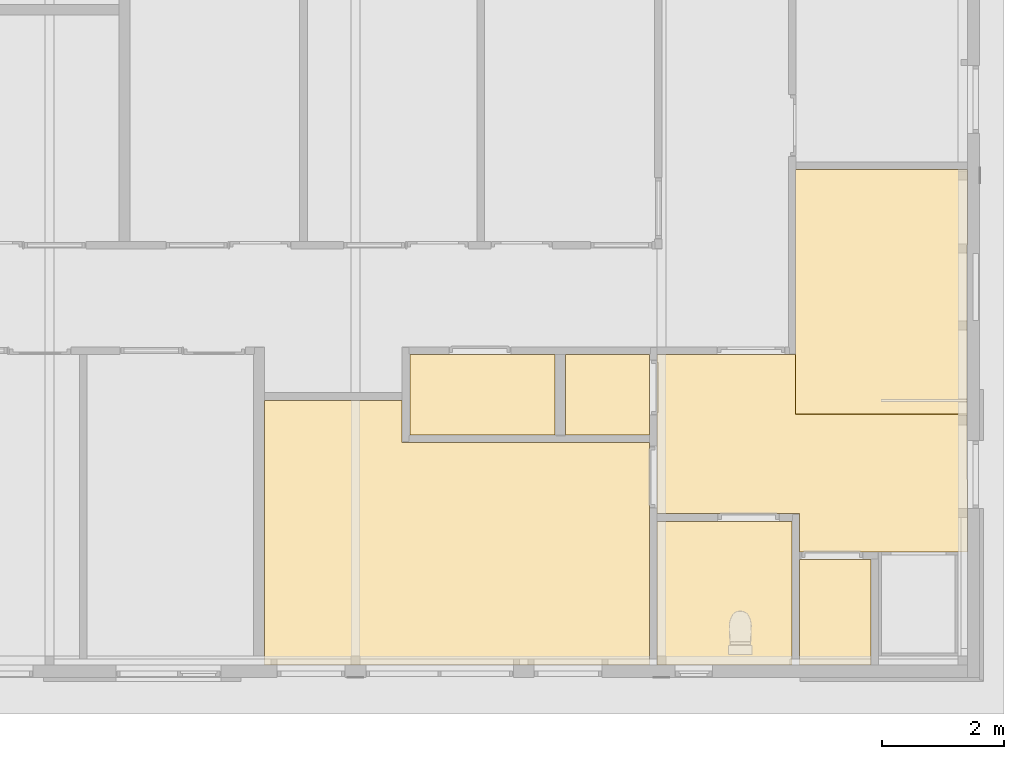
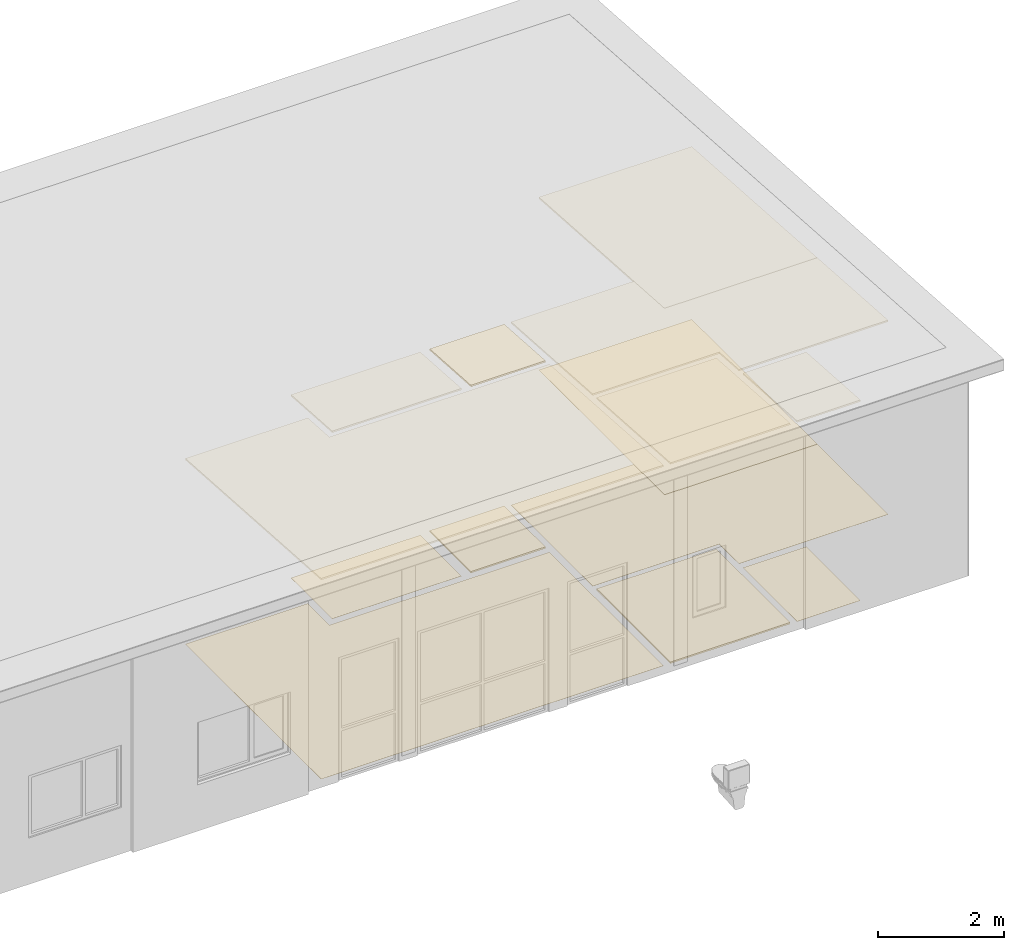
# One storey, part 34 of 37: 14 coverings.
"""IFC2X3 building model written with IfcOpenShell, lengths in millimetres."""

from ifc_helpers import new_model, entity, si_unit, converted_unit, frame, frame_2d, origin, origin_with_axes, place, context, subcontext, project, spatial, polyline, rectangle, outline, extrude, material, layer, layer_set, layer_usage, element, save


model = new_model("IFC2X3")

# Units and contexts
model_context = context("Model", 3, precision=1e-05, world=origin())
plan_context = context("Plan", 3, precision=1e-05, world=origin())
body_context = subcontext(model_context, "Body", "Model", "MODEL_VIEW")
ifc_project = project(units=[si_unit("LENGTHUNIT", "METRE", prefix="MILLI"), converted_unit("PLANEANGLEUNIT", "DEGREE", entity("IfcPlaneAngleMeasure", 0.0174532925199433), si_unit("PLANEANGLEUNIT", "RADIAN"), dimensions=[0, 0, 0, 0, 0, 0, 0]), si_unit("AREAUNIT", "SQUARE_METRE"), si_unit("VOLUMEUNIT", "CUBIC_METRE")], contexts=[model_context, plan_context])

# Building, storey, space
building_placement = place(None, origin())
building = spatial("IfcBuilding", under=ifc_project, at=building_placement, Name="HEKF Administrasjonbygg", CompositionType="ELEMENT")
storey_placement = place(building_placement, frame((0.0, 0.0, 9900.0), z_axis=(0.0, 0.0, 1.0), x_axis=(1.0, 0.0, 0.0)))
storey = spatial("IfcBuildingStorey", under=building, at=storey_placement, Name="Plan 2", CompositionType="ELEMENT", Elevation=9900.0)
space_1_placement = place(storey_placement, frame((20888.99999999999, -8237.0, 0.0), z_axis=(0.0, 0.0, 1.0), x_axis=(1.0, 0.0, 0.0)))
space_1 = spatial("IfcSpace", under=storey, at=space_1_placement, Name="215", CompositionType="ELEMENT", InteriorOrExteriorSpace="INTERNAL")

# Coverings
ifc_material_1 = material(Name="Våtromsbelegg m oppkant")
ifc_layer_1 = layer(ifc_material_1, 3.0)
ifc_layer_set_1 = layer_set([ifc_layer_1])
ifc_layer_usage_1 = layer_usage(ifc_layer_set_1, "AXIS3", "POSITIVE", 0.0)
covering_1_placement = place(space_1_placement, origin_with_axes())
element("IfcCovering", 1, at=covering_1_placement, inside=space_1, material=ifc_layer_usage_1, PredefinedType="FLOORING", context=body_context, shape_type="SweptSolid", body=[
    extrude(rectangle(XDim=2374.214318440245, YDim=1312.0, at=frame_2d((-1187.107159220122, -655.9999999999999), x_axis=(-0.9999999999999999, 0.0))), frame((2374.214318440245, 1312.0, 0.0), z_axis=(0.0, 0.0, 1.0), x_axis=(1.0, 0.0, 0.0)), (0.0, 0.0, 1.0), 3.0),
])
ifc_material_2 = material(Name="Systemhimling")
ifc_layer_2 = layer(ifc_material_2, 30.0)
ifc_layer_set_2 = layer_set([ifc_layer_2])
ifc_layer_usage_2 = layer_usage(ifc_layer_set_2, "AXIS3", "POSITIVE", 0.0)
covering_2_placement = place(space_1_placement, frame((1187.107159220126, 656.0, 3605.399999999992), z_axis=(0.0, -0.06651901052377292, -0.997785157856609), x_axis=(-1.0, 0.0, 0.0)))
element("IfcCovering", 2, at=covering_2_placement, inside=space_1, material=ifc_layer_usage_2, PredefinedType="CEILING", context=body_context, shape_type="SweptSolid", body=[
    extrude(rectangle(XDim=2374.214318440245, YDim=1314.912323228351, at=frame_2d((-1187.107159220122, -657.4561616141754), x_axis=(-0.9999999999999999, 0.0))), frame((1187.107159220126, 657.4561616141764, 0.0), z_axis=(0.0, 0.0, 1.0), x_axis=(1.0, 0.0, 0.0)), (0.0, 0.0, 1.0), 30.0),
])

# Space
space_2_placement = place(storey_placement, frame((23437.21431844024, -8237.0, 0.0), z_axis=(0.0, 0.0, 1.0), x_axis=(1.0, 0.0, 0.0)))
space_2 = spatial("IfcSpace", under=storey, at=space_2_placement, Name="204", CompositionType="ELEMENT", InteriorOrExteriorSpace="INTERNAL")

# Coverings
ifc_material_3 = material(Name="Våtromsbelegg m oppkant")
ifc_layer_3 = layer(ifc_material_3, 30.0)
ifc_layer_set_3 = layer_set([ifc_layer_3])
ifc_layer_usage_3 = layer_usage(ifc_layer_set_3, "AXIS3", "POSITIVE", 0.0)
covering_3_placement = place(space_2_placement, origin_with_axes())
element("IfcCovering", 3, at=covering_3_placement, inside=space_2, material=ifc_layer_usage_3, PredefinedType="FLOORING", context=body_context, shape_type="SweptSolid", body=[
    extrude(rectangle(XDim=1312.0, YDim=1369.703231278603, at=frame_2d((684.8516156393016, -656.0), x_axis=(0.0, -1.0))), frame((0.0, 1312.0, 0.0), z_axis=(0.0, 0.0, 1.0), x_axis=(1.0, 0.0, 0.0)), (0.0, 0.0, 1.0), 30.0),
])
ifc_material_4 = material(Name="Systemhimling")
ifc_layer_4 = layer(ifc_material_4, 30.0)
ifc_layer_set_4 = layer_set([ifc_layer_4])
ifc_layer_usage_4 = layer_usage(ifc_layer_set_4, "AXIS3", "POSITIVE", 0.0)
covering_4_placement = place(space_2_placement, frame((684.8516156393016, 656.0, 3605.399999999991), z_axis=(0.0, -0.06651901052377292, -0.9977851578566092), x_axis=(-1.0, 0.0, 0.0)))
element("IfcCovering", 4, at=covering_4_placement, inside=space_2, material=ifc_layer_usage_4, PredefinedType="CEILING", context=body_context, shape_type="SweptSolid", body=[
    extrude(rectangle(XDim=1314.912323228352, YDim=1369.703231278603, at=frame_2d((-684.8516156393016, 657.4561616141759), x_axis=(0.0, 1.0))), frame((684.8516156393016, -657.4561616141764, 0.0), z_axis=(0.0, 0.0, 1.0), x_axis=(1.0, 0.0, 0.0)), (0.0, 0.0, 1.0), 30.0),
])

# Space
space_3_placement = place(storey_placement, frame((24932.91754971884, -12000.0, 0.0), z_axis=(0.0, 0.0, 1.0), x_axis=(1.0, 0.0, 0.0)))
space_3 = spatial("IfcSpace", under=storey, at=space_3_placement, Name="203", CompositionType="ELEMENT", InteriorOrExteriorSpace="INTERNAL")

# Coverings
ifc_material_5 = material(Name="Våtromsbelegg m oppkant")
ifc_layer_5 = layer(ifc_material_5, 30.0)
ifc_layer_set_5 = layer_set([ifc_layer_5])
ifc_layer_usage_5 = layer_usage(ifc_layer_set_5, "AXIS3", "POSITIVE", 0.0)
covering_5_placement = place(space_3_placement, origin_with_axes())
element("IfcCovering", 5, at=covering_5_placement, inside=space_3, material=ifc_layer_usage_5, PredefinedType="FLOORING", context=body_context, shape_type="SweptSolid", body=[
    extrude(rectangle(XDim=2200.0, YDim=2350.0, at=frame_2d((-1100.0, -1175.0), x_axis=(-1.0, 0.0))), frame((2200.0, 2350.0, 0.0), z_axis=(0.0, 0.0, 1.0), x_axis=(1.0, 0.0, 0.0)), (0.0, 0.0, 1.0), 30.0),
])
ifc_material_6 = material(Name="Systemhimling")
ifc_layer_6 = layer(ifc_material_6, 30.0)
ifc_layer_set_6 = layer_set([ifc_layer_6])
ifc_layer_usage_6 = layer_usage(ifc_layer_set_6, "AXIS3", "POSITIVE", 0.0)
covering_6_placement = place(space_3_placement, frame((1100.0, 1175.0, 3821.666666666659), z_axis=(-2.808449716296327e-18, -0.06651901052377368, -0.997785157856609), x_axis=(-1.0, 4.222025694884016e-17, 0.0)))
element("IfcCovering", 6, at=covering_6_placement, inside=space_3, material=ifc_layer_usage_6, PredefinedType="CEILING", context=body_context, shape_type="SweptSolid", body=[
    extrude(rectangle(XDim=2200.0, YDim=2355.216432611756, at=frame_2d((-1100.0, -1177.608216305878), x_axis=(-1.0, 0.0))), frame((1100.0, 1177.60821630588, 0.0), z_axis=(0.0, 0.0, 1.0), x_axis=(1.0, 0.0, 0.0)), (0.0, 0.0, 1.0), 30.0),
])

# Space
space_4_placement = place(storey_placement, frame((18512.99999999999, -12000.0, 0.0), z_axis=(0.0, 0.0, 1.0), x_axis=(1.0, 0.0, 0.0)))
space_4 = spatial("IfcSpace", under=storey, at=space_4_placement, Name="214", CompositionType="ELEMENT", InteriorOrExteriorSpace="INTERNAL")

# Coverings
ifc_material_7 = material(Name="banebelegg acustikk")
ifc_layer_7 = layer(ifc_material_7, 3.0)
ifc_layer_set_7 = layer_set([ifc_layer_7])
ifc_layer_usage_7 = layer_usage(ifc_layer_set_7, "AXIS3", "POSITIVE", 0.0)
covering_7_placement = place(space_4_placement, origin_with_axes())
element("IfcCovering", 7, at=covering_7_placement, inside=space_4, material=ifc_layer_usage_7, PredefinedType="FLOORING", context=body_context, shape_type="SweptSolid", body=[
    extrude(outline(polyline([(2250.0, 3637.0), (2250.0, 4325.0), (0.0, 4325.0), (0.0, 0.0), (6293.917549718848, 0.0), (6293.917549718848, 3637.0), (2250.0, 3637.0)])), origin_with_axes(), (0.0, 0.0, 1.0), 3.0),
])
ifc_material_8 = material(Name="Systemhimling")
ifc_layer_8 = layer(ifc_material_8, 30.0)
ifc_layer_set_8 = layer_set([ifc_layer_8])
ifc_layer_usage_8 = layer_usage(ifc_layer_set_8, "AXIS3", "POSITIVE", 0.0)
covering_8_placement = place(space_4_placement, frame((2847.972516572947, 2654.0, 3723.066666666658), z_axis=(9.640688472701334e-18, -0.06651901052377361, -0.997785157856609), x_axis=(-1.0, -1.449313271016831e-16, 0.0)))
element("IfcCovering", 8, at=covering_8_placement, inside=space_4, material=ifc_layer_usage_8, PredefinedType="CEILING", context=body_context, shape_type="SweptSolid", body=[
    extrude(outline(polyline([(597.9725165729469, 1674.709216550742), (597.9725165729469, 985.1820226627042), (-3445.945033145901, 985.1820226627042), (-3445.945033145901, -2659.891239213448), (2847.972516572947, -2659.891239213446), (2847.972516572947, 1674.709216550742), (597.9725165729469, 1674.709216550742)])), origin_with_axes(), (0.0, 0.0, 1.0), 30.0),
])

# Space
space_5_placement = place(storey_placement, frame((27258.91754971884, -12000.0, 0.0), z_axis=(0.0, 0.0, 1.0), x_axis=(1.0, 0.0, 0.0)))
space_5 = spatial("IfcSpace", under=storey, at=space_5_placement, Name="216", CompositionType="ELEMENT", InteriorOrExteriorSpace="INTERNAL")

# Coverings
ifc_material_9 = material(Name="banebelegg acustikk")
ifc_layer_9 = layer(ifc_material_9, 3.0)
ifc_layer_set_9 = layer_set([ifc_layer_9])
ifc_layer_usage_9 = layer_usage(ifc_layer_set_9, "AXIS3", "POSITIVE", 0.0)
covering_9_placement = place(space_5_placement, origin_with_axes())
element("IfcCovering", 9, at=covering_9_placement, inside=space_5, material=ifc_layer_usage_9, PredefinedType="FLOORING", context=body_context, shape_type="SweptSolid", body=[
    extrude(rectangle(XDim=1724.0, YDim=1165.082450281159, at=frame_2d((582.5412251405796, -862.0), x_axis=(0.0, -1.0))), frame((0.0, 1724.0, 0.0), z_axis=(0.0, 0.0, 1.0), x_axis=(1.0, 0.0, 0.0)), (0.0, 0.0, 1.0), 3.0),
])
ifc_material_10 = material(Name="Systemhimling")
ifc_layer_10 = layer(ifc_material_10, 30.0)
ifc_layer_set_10 = layer_set([ifc_layer_10])
ifc_layer_usage_10 = layer_usage(ifc_layer_set_10, "AXIS3", "POSITIVE", 0.0)
covering_10_placement = place(space_5_placement, frame((582.5412251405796, 862.0, 3842.533333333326), z_axis=(0.0, -0.06651901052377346, -0.9977851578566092), x_axis=(-1.0, 0.0, 0.0)))
element("IfcCovering", 10, at=covering_10_placement, inside=space_5, material=ifc_layer_usage_10, PredefinedType="CEILING", context=body_context, shape_type="SweptSolid", body=[
    extrude(rectangle(XDim=1727.826863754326, YDim=1165.082450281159, at=frame_2d((-582.5412251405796, 863.913431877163), x_axis=(0.0, 1.0))), frame((582.5412251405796, -863.9134318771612, 0.0), z_axis=(0.0, 0.0, 1.0), x_axis=(1.0, 0.0, 0.0)), (0.0, 0.0, 1.0), 30.0),
])

# Space
space_6_placement = place(storey_placement, frame((24932.91754971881, -10150.0, 0.0), z_axis=(0.0, 0.0, 1.0), x_axis=(1.0, 0.0, 0.0)))
space_6 = spatial("IfcSpace", under=storey, at=space_6_placement, Name="201", CompositionType="ELEMENT", InteriorOrExteriorSpace="INTERNAL")

# Coverings
ifc_material_11 = material(Name="Golvflis")
ifc_layer_11 = layer(ifc_material_11, 3.0)
ifc_layer_set_11 = layer_set([ifc_layer_11])
ifc_layer_usage_11 = layer_usage(ifc_layer_set_11, "AXIS3", "POSITIVE", 0.0)
covering_11_placement = place(space_6_placement, origin_with_axes())
element("IfcCovering", 11, at=covering_11_placement, inside=space_6, material=ifc_layer_usage_11, PredefinedType="FLOORING", context=body_context, shape_type="SweptSolid", body=[
    extrude(outline(polyline([(2326.000000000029, 626.0), (2326.000000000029, 0.0), (5067.082450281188, 0.0), (5067.113891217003, 708.375925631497), (5067.082450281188, 708.375925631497), (5065.08716012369, 2250.000000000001), (2255.619256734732, 2250.000000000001), (2256.105608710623, 3225.000000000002), (0.0, 3225.000000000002), (2.91038304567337e-11, 626.0), (2326.000000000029, 626.0)])), origin_with_axes(), (0.0, 0.0, 1.0), 3.0),
])
ifc_material_12 = material(Name="Systemhimling")
ifc_layer_12 = layer(ifc_material_12, 30.0)
ifc_layer_set_12 = layer_set([ifc_layer_12])
ifc_layer_usage_12 = layer_usage(ifc_layer_set_12, "AXIS3", "POSITIVE", 0.0)
covering_12_placement = place(space_6_placement, frame((2943.009081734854, 1361.875185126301, 3685.874987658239), z_axis=(2.45612246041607e-16, -0.06651901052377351, -0.997785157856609), x_axis=(-1.0, -3.692361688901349e-15, 0.0)))
element("IfcCovering", 12, at=covering_12_placement, inside=space_6, material=ifc_layer_usage_12, PredefinedType="CEILING", context=body_context, shape_type="SweptSolid", body=[
    extrude(outline(polyline([(617.0090817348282, -1364.898219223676), (617.0090817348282, -737.508650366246), (2943.009081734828, -737.5086503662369), (2943.009081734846, 1867.26050212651), (686.9034730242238, 1867.260502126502), (687.3898250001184, 890.0962375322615), (-2122.07807838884, 890.0962375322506), (-2124.073368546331, -654.9498700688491), (-2124.104809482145, -654.9498700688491), (-2124.073368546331, -1364.898219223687), (617.0090817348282, -1364.898219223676)])), origin_with_axes(), (0.0, 0.0, 1.0), 30.0),
])

# Space
space_7_placement = place(storey_placement, frame((27188.53680645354, -7900.000000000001, 0.0), z_axis=(0.0, 0.0, 1.0), x_axis=(1.0, 0.0, 0.0)))
space_7 = spatial("IfcSpace", under=storey, at=space_7_placement, Name="200", CompositionType="ELEMENT", InteriorOrExteriorSpace="INTERNAL")

# Coverings
ifc_material_13 = material(Name="Golvflis")
ifc_layer_13 = layer(ifc_material_13, 3.0)
ifc_layer_set_13 = layer_set([ifc_layer_13])
ifc_layer_usage_13 = layer_usage(ifc_layer_set_13, "AXIS3", "POSITIVE", 0.0)
covering_13_placement = place(space_7_placement, origin_with_axes())
element("IfcCovering", 13, at=covering_13_placement, inside=space_7, material=ifc_layer_usage_13, PredefinedType="FLOORING", context=body_context, shape_type="SweptSolid", body=[
    extrude(outline(polyline([(2811.46319354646, 4000.0), (1.995290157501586, 4000.0), (0.0, 0.0), (2809.467903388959, 0.0), (2811.46319354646, 4000.0)])), origin_with_axes(), (0.0, 0.0, 1.0), 3.0),
])
ifc_material_14 = material(Name="Systemhimling")
ifc_layer_14 = layer(ifc_material_14, 30.0)
ifc_layer_set_14 = layer_set([ifc_layer_14])
ifc_layer_usage_14 = layer_usage(ifc_layer_set_14, "AXIS3", "POSITIVE", 0.0)
covering_14_placement = place(space_7_placement, frame((1405.731596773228, 2000.0, 3493.333333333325), z_axis=(0.0, -0.06651901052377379, -0.9977851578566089), x_axis=(-1.0, 0.0, 0.0)))
element("IfcCovering", 14, at=covering_14_placement, inside=space_7, material=ifc_layer_usage_14, PredefinedType="CEILING", context=body_context, shape_type="SweptSolid", body=[
    extrude(outline(polyline([(1403.736306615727, 2004.439517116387), (-1405.731596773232, 2004.439517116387), (-1403.73630661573, -2004.439517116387), (1405.731596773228, -2004.439517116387), (1403.736306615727, 2004.439517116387)])), origin_with_axes(), (0.0, 0.0, 1.0), 30.0),
])

save(model, "model.ifc")
